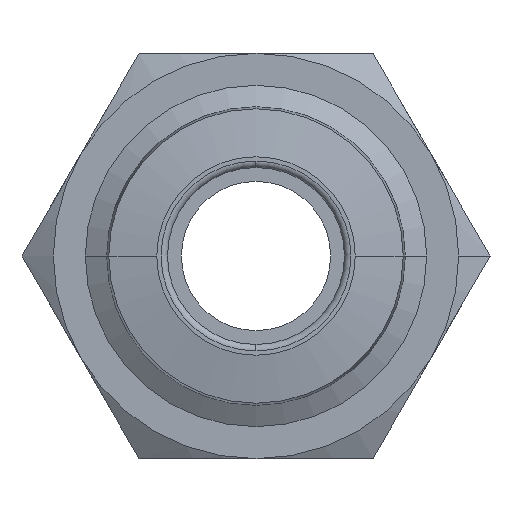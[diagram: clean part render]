
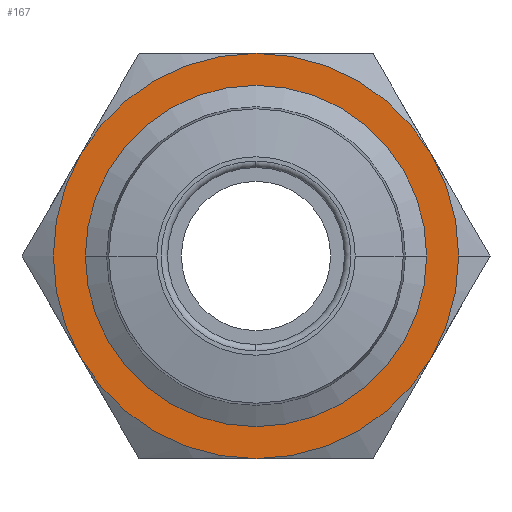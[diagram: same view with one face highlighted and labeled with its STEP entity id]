
A CAD part, front view. The second image highlights one B-rep face of the part: STEP entity #167.
In plain terms, the highlighted planar face has unit normal (0, -1, 0).
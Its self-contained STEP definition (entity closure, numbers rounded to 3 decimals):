
#42 = VERTEX_POINT ( 'NONE', #1703 ) ;
#70 = CARTESIAN_POINT ( 'NONE',  ( 8.227, -6.5, -4.75 ) ) ;
#89 = ORIENTED_EDGE ( 'NONE', *, *, #2355, .T. ) ;
#108 = AXIS2_PLACEMENT_3D ( 'NONE', #2278, #1256, #310 ) ;
#122 = CARTESIAN_POINT ( 'NONE',  ( -8.227, -6.5, -4.75 ) ) ;
#155 = AXIS2_PLACEMENT_3D ( 'NONE', #394, #2575, #1593 ) ;
#158 = CIRCLE ( 'NONE', #2313, 9.5 ) ;
#162 = ORIENTED_EDGE ( 'NONE', *, *, #525, .T. ) ;
#166 = ORIENTED_EDGE ( 'NONE', *, *, #2163, .T. ) ;
#167 = ADVANCED_FACE ( 'NONE', ( #326, #1137 ), #1119, .T. ) ;
#205 = CARTESIAN_POINT ( 'NONE',  ( -8.227, -6.5, 4.75 ) ) ;
#233 = CIRCLE ( 'NONE', #1886, 9.5 ) ;
#247 = CIRCLE ( 'NONE', #555, 9.5 ) ;
#291 = CARTESIAN_POINT ( 'NONE',  ( 0., -6.5, 0. ) ) ;
#304 = CIRCLE ( 'NONE', #1620, 8. ) ;
#310 = DIRECTION ( 'NONE',  ( -1., 0., 0. ) ) ;
#326 = FACE_OUTER_BOUND ( 'NONE', #2510, .T. ) ;
#329 = AXIS2_PLACEMENT_3D ( 'NONE', #1344, #1129, #2289 ) ;
#343 = CARTESIAN_POINT ( 'NONE',  ( 8.227, -6.5, 4.75 ) ) ;
#370 = CIRCLE ( 'NONE', #618, 8. ) ;
#378 = VERTEX_POINT ( 'NONE', #343 ) ;
#394 = CARTESIAN_POINT ( 'NONE',  ( 0., -6.5, 0. ) ) ;
#409 = ORIENTED_EDGE ( 'NONE', *, *, #1304, .T. ) ;
#422 = ORIENTED_EDGE ( 'NONE', *, *, #2454, .T. ) ;
#426 = VERTEX_POINT ( 'NONE', #205 ) ;
#438 = DIRECTION ( 'NONE',  ( 1., 0., 0. ) ) ;
#525 = EDGE_CURVE ( 'NONE', #378, #1792, #2052, .T. ) ;
#546 = ORIENTED_EDGE ( 'NONE', *, *, #1627, .F. ) ;
#555 = AXIS2_PLACEMENT_3D ( 'NONE', #2066, #2459, #438 ) ;
#618 = AXIS2_PLACEMENT_3D ( 'NONE', #291, #1099, #1906 ) ;
#638 = CARTESIAN_POINT ( 'NONE',  ( 0., -6.5, 9.5 ) ) ;
#642 = CARTESIAN_POINT ( 'NONE',  ( 0., -6.5, 0. ) ) ;
#706 = EDGE_CURVE ( 'NONE', #870, #378, #158, .T. ) ;
#718 = DIRECTION ( 'NONE',  ( 0., -1., 0. ) ) ;
#745 = CIRCLE ( 'NONE', #155, 9.5 ) ;
#845 = CARTESIAN_POINT ( 'NONE',  ( 0., -6.5, 0. ) ) ;
#870 = VERTEX_POINT ( 'NONE', #1651 ) ;
#915 = CARTESIAN_POINT ( 'NONE',  ( 0., -6.5, 0. ) ) ;
#1099 = DIRECTION ( 'NONE',  ( 0., -1., 0. ) ) ;
#1103 = ORIENTED_EDGE ( 'NONE', *, *, #706, .T. ) ;
#1114 = VERTEX_POINT ( 'NONE', #70 ) ;
#1119 = PLANE ( 'NONE',  #108 ) ;
#1129 = DIRECTION ( 'NONE',  ( 0., -1., 0. ) ) ;
#1137 = FACE_BOUND ( 'NONE', #2062, .T. ) ;
#1166 = DIRECTION ( 'NONE',  ( 0., -1., 0. ) ) ;
#1178 = CARTESIAN_POINT ( 'NONE',  ( 0., -6.5, 0. ) ) ;
#1196 = DIRECTION ( 'NONE',  ( 0., -1., 0. ) ) ;
#1207 = DIRECTION ( 'NONE',  ( 1., 0., 0. ) ) ;
#1248 = DIRECTION ( 'NONE',  ( 1., 0., 0. ) ) ;
#1255 = VERTEX_POINT ( 'NONE', #122 ) ;
#1256 = DIRECTION ( 'NONE',  ( 0., -1., 0. ) ) ;
#1257 = DIRECTION ( 'NONE',  ( 0., -1., 0. ) ) ;
#1304 = EDGE_CURVE ( 'NONE', #42, #1114, #247, .T. ) ;
#1344 = CARTESIAN_POINT ( 'NONE',  ( 0., -6.5, 0. ) ) ;
#1446 = CARTESIAN_POINT ( 'NONE',  ( 0., -6.5, 0. ) ) ;
#1593 = DIRECTION ( 'NONE',  ( 1., 0., 0. ) ) ;
#1603 = ORIENTED_EDGE ( 'NONE', *, *, #1803, .T. ) ;
#1620 = AXIS2_PLACEMENT_3D ( 'NONE', #1178, #1166, #1983 ) ;
#1621 = DIRECTION ( 'NONE',  ( 1., 0., 0. ) ) ;
#1627 = EDGE_CURVE ( 'NONE', #2095, #2420, #304, .T. ) ;
#1651 = CARTESIAN_POINT ( 'NONE',  ( 9.5, -6.5, 0. ) ) ;
#1665 = DIRECTION ( 'NONE',  ( 0., -1., 0. ) ) ;
#1703 = CARTESIAN_POINT ( 'NONE',  ( 0., -6.5, -9.5 ) ) ;
#1792 = VERTEX_POINT ( 'NONE', #638 ) ;
#1803 = EDGE_CURVE ( 'NONE', #1114, #870, #233, .T. ) ;
#1838 = AXIS2_PLACEMENT_3D ( 'NONE', #642, #1665, #1248 ) ;
#1886 = AXIS2_PLACEMENT_3D ( 'NONE', #845, #1257, #1207 ) ;
#1906 = DIRECTION ( 'NONE',  ( 1., 0., 0. ) ) ;
#1956 = CARTESIAN_POINT ( 'NONE',  ( -8., -6.5, 0. ) ) ;
#1983 = DIRECTION ( 'NONE',  ( 1., 0., 0. ) ) ;
#2052 = CIRCLE ( 'NONE', #2100, 9.5 ) ;
#2062 = EDGE_LOOP ( 'NONE', ( #2513, #546 ) ) ;
#2066 = CARTESIAN_POINT ( 'NONE',  ( 0., -6.5, 0. ) ) ;
#2095 = VERTEX_POINT ( 'NONE', #1956 ) ;
#2100 = AXIS2_PLACEMENT_3D ( 'NONE', #1446, #1196, #1621 ) ;
#2163 = EDGE_CURVE ( 'NONE', #1792, #426, #2188, .T. ) ;
#2188 = CIRCLE ( 'NONE', #329, 9.5 ) ;
#2259 = CIRCLE ( 'NONE', #1838, 9.5 ) ;
#2271 = EDGE_CURVE ( 'NONE', #2420, #2095, #370, .T. ) ;
#2278 = CARTESIAN_POINT ( 'NONE',  ( 8.75, -6.5, 0. ) ) ;
#2289 = DIRECTION ( 'NONE',  ( 1., 0., 0. ) ) ;
#2313 = AXIS2_PLACEMENT_3D ( 'NONE', #915, #718, #2379 ) ;
#2355 = EDGE_CURVE ( 'NONE', #426, #1255, #745, .T. ) ;
#2379 = DIRECTION ( 'NONE',  ( 1., 0., 0. ) ) ;
#2420 = VERTEX_POINT ( 'NONE', #2426 ) ;
#2426 = CARTESIAN_POINT ( 'NONE',  ( 8., -6.5, 0. ) ) ;
#2454 = EDGE_CURVE ( 'NONE', #1255, #42, #2259, .T. ) ;
#2459 = DIRECTION ( 'NONE',  ( 0., -1., 0. ) ) ;
#2510 = EDGE_LOOP ( 'NONE', ( #1603, #1103, #162, #166, #89, #422, #409 ) ) ;
#2513 = ORIENTED_EDGE ( 'NONE', *, *, #2271, .F. ) ;
#2575 = DIRECTION ( 'NONE',  ( 0., -1., 0. ) ) ;
